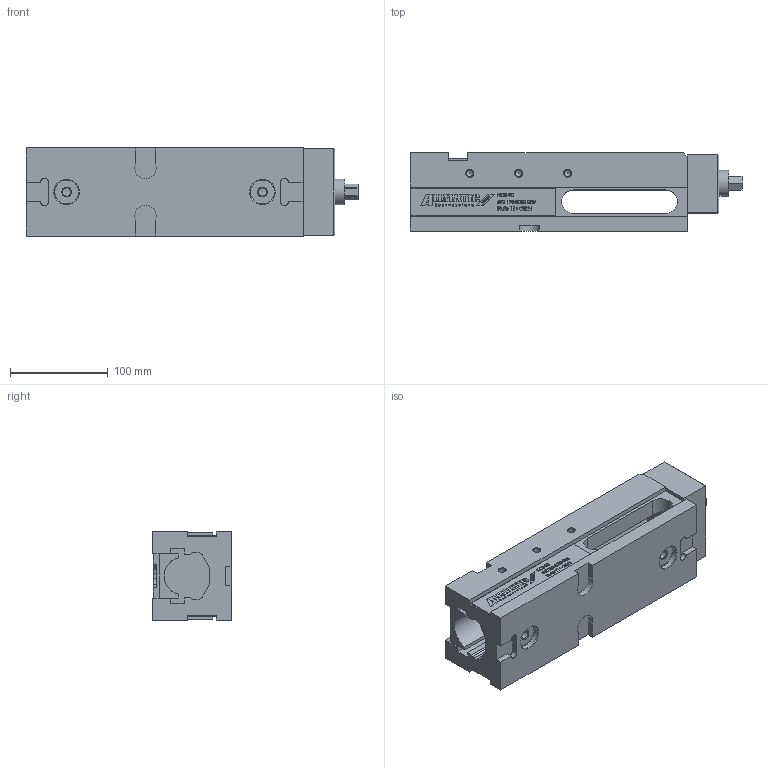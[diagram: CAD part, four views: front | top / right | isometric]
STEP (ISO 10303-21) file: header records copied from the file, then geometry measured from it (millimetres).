
FILE_DESCRIPTION (( 'STEP AP214' ), '1' );
FILE_NAME ('6921908000055.STEP', '2018-01-11T10:10:51', ( 'user' ), ( 'Hewlett-Packard Company' ), 'SwSTEP 2.0', 'SolidWorks 2016', '' );
FILE_SCHEMA (( 'AUTOMOTIVE_DESIGN' ));
Length unit declared in the file: millimetre
Products named in the file (1): 6921908000055
Bounding box: 339.1 x 80 x 90 mm (x, y, z)
Volume: 1352896.1 mm3; surface area: 205766 mm2
Topology: 1 solids, 1 shells, 2017 faces, 5494 edges, 3646 vertices
Faces by surface type: plane 1461, bspline 402, cylinder 116, cone 38
Full cylindrical faces by diameter (mm): 6.8 x10, 8.5 x16, 24 x2, 25 x2, 26.5 x1
Entity records: 107720 total; most frequent: CARTESIAN_POINT 38679, ORIENTED_EDGE 10818, DIRECTION 8055, EDGE_CURVE 5409, VECTOR 4339, LINE 4339, VERTEX_POINT 3626, EDGE_LOOP 2285
